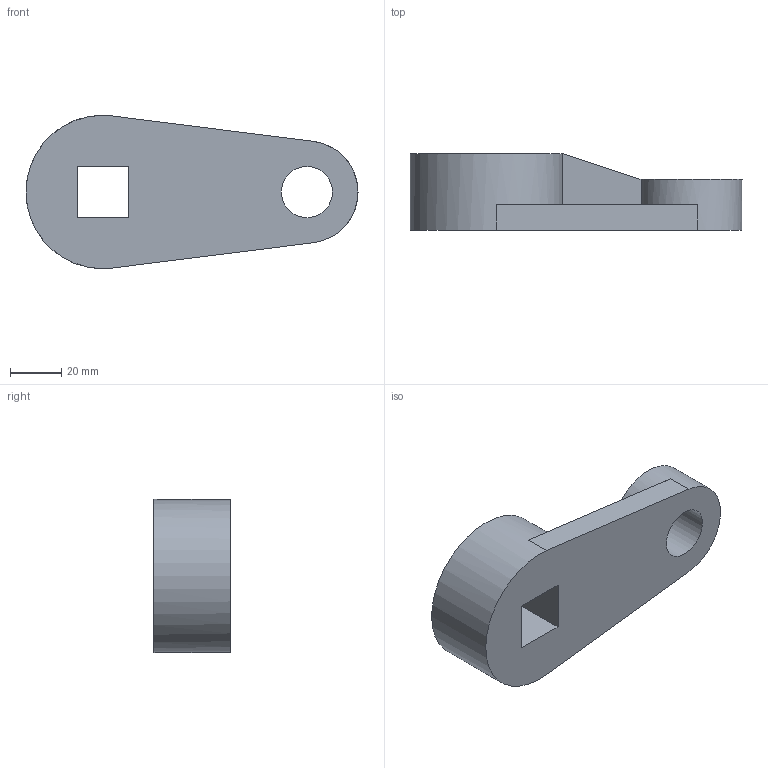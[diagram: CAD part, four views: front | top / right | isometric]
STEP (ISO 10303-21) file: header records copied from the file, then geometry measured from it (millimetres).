
FILE_DESCRIPTION(/* description */ (''),/* implementation_level */ '2;1');
FILE_NAME(/* name */ 'E:\OneDrive\School\Courses\Graphic Communication\Higher\Projects\Technical Graphics\Higher GC Technical Graphics\AS STEP\Section_1.stp',/* time_stamp */ '2020-12-07T16:33:50+00:00',/* author */ ('hunte'),/* organization */ (''),/* preprocessor_version */ 'ST-DEVELOPER v18.1',/* originating_system */ 'Autodesk Inventor 2020',/* authorisation */ '');
FILE_SCHEMA (('AUTOMOTIVE_DESIGN { 1 0 10303 214 3 1 1 }'));
Length unit declared in the file: millimetre
Products named in the file (1): Section_1
Bounding box: 130 x 30 x 60 mm (x, y, z)
Volume: 116114 mm3; surface area: 23228.5 mm2
Topology: 1 solids, 1 shells, 17 faces, 45 edges, 30 vertices
Faces by surface type: plane 14, cylinder 3
Full cylindrical faces by diameter (mm): 20 x1
Entity records: 578 total; most frequent: CARTESIAN_POINT 93, DIRECTION 91, ORIENTED_EDGE 90, EDGE_CURVE 45, LINE 35, VECTOR 35, VERTEX_POINT 30, AXIS2_PLACEMENT_3D 28
